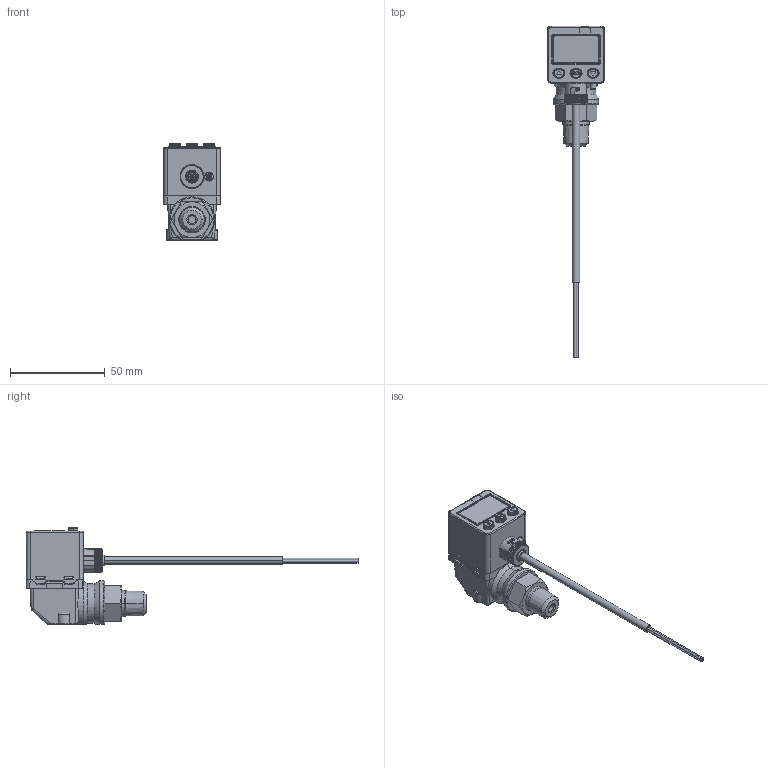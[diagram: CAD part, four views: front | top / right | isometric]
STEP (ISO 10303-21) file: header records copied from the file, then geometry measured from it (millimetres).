
FILE_DESCRIPTION(('STEP AP203'),'1');
FILE_NAME('-F1-L.stp','2025-06-20T03:04:00',(' '),(' '),'Spatial InterOp 3D',' ',' ');
FILE_SCHEMA(('CONFIG_CONTROL_DESIGN'));
Length unit declared in the file: millimetre
Products named in the file (3): P75※-※※-F1-L; KP50_SW0001
Assembly tree (2 placements, depth 2):
  P75※-※※-F1-L
    KP50_SW0001
    KP50_SW0001
Bounding box: 30.31 x 175.46 x 51.2 mm (x, y, z)
Volume: 976.1 mm3; surface area: 28144.2 mm2
Topology: 1 solids, 1707 shells, 1912 faces, 9583 edges, 9377 vertices
Faces by surface type: plane 829, cylinder 508, bspline 256, cone 216, torus 65, sphere 32, extrusion 6
Entity records: 127976 total; most frequent: CARTESIAN_POINT 61945, DIRECTION 11487, ORIENTED_EDGE 10131, EDGE_CURVE 9581, VERTEX_POINT 9377, VECTOR 4627, LINE 4621, AXIS2_PLACEMENT_3D 3430
